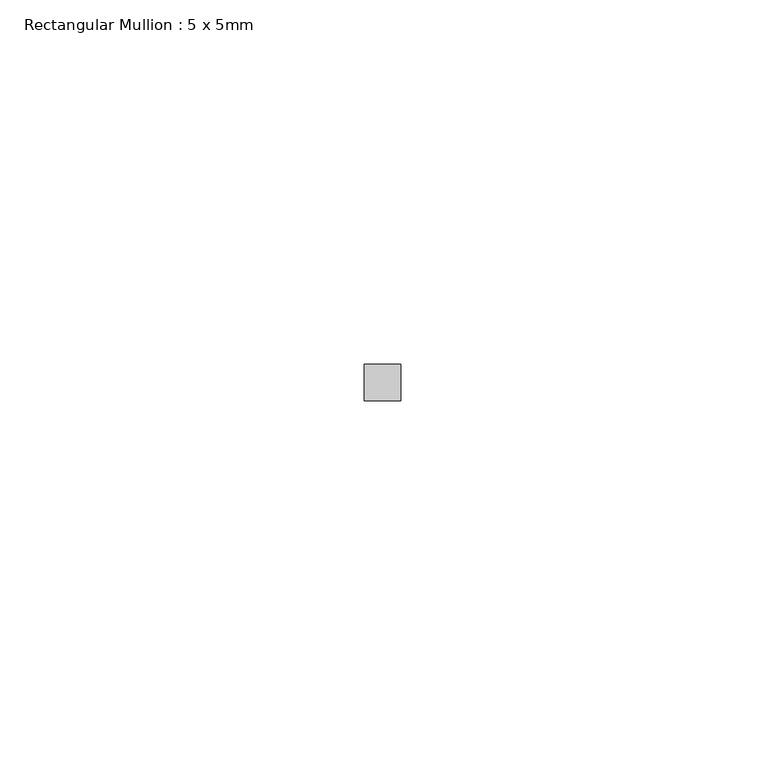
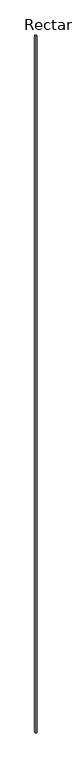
"""IFC4 building model written with IfcOpenShell, lengths in millimetres: member geometry, Rectangular Mullion : 5 x 5mm."""

from ifc_helpers import new_model, si_unit, frame, origin, place, context, project, spatial, polyline, outline, extrude, source, transform, mapped, element, save


def rectangular_mullion_5_x_5mm_88a26902(model_context):
    return source(origin(), model_context, "Body", "SweptSolid", [
        extrude(outline(polyline([(2.5, 2.5), (2.5, -2.5), (-2.5, -2.5), (-2.5, 2.5), (2.5, 2.5)])), frame((0.0, 0.0, -2390.0), z_axis=(0.0, 0.0, 1.0), x_axis=(1.0, 0.0, 0.0)), (0.0, 0.0, 1.0), 2390.0),
    ])


if __name__ == "__main__":
    model = new_model("IFC4")
    model_context = context("Model", 3, world=origin())
    ifc_project = project(units=[si_unit("LENGTHUNIT", "METRE", prefix="MILLI")], contexts=[model_context])
    site = spatial("IfcSite", under=ifc_project)
    building = spatial("IfcBuilding", under=site)
    placement = place(None, origin())
    rectangular_mullion_5_x_5mm_shape = rectangular_mullion_5_x_5mm_88a26902(model_context)
    element("IfcMember", 1, ObjectType="Rectangular Mullion : 5 x 5mm", at=placement, inside=building, context=model_context, shape_type="MappedRepresentation", body=[
        mapped(rectangular_mullion_5_x_5mm_shape, transform((0.0, 0.0, 0.0), x_axis=(1.0, 0.0, 0.0), y_axis=(0.0, 1.0, 0.0), z_axis=(0.0, 0.0, 1.0))),
    ])
    save(model, "model.ifc")
